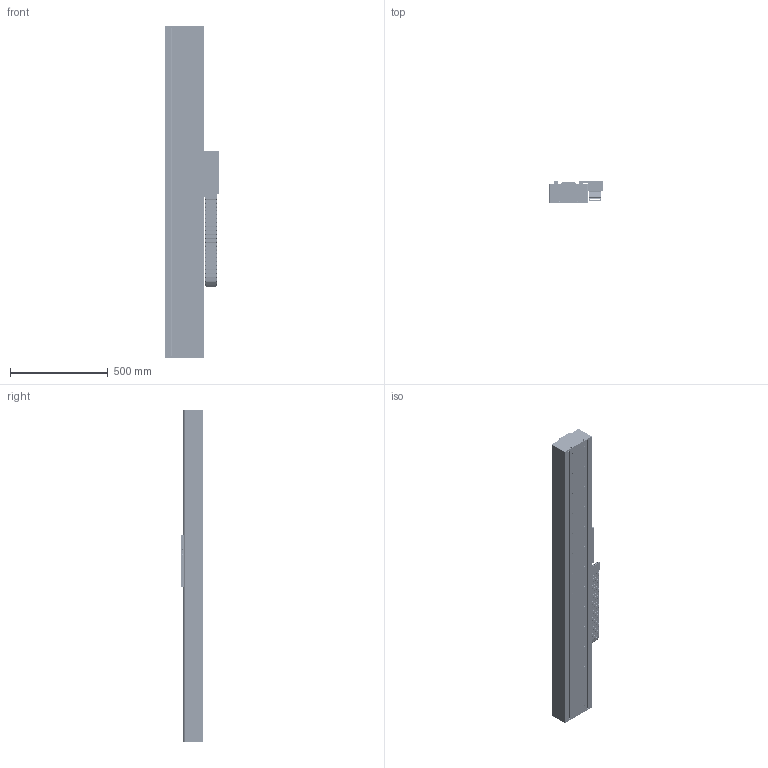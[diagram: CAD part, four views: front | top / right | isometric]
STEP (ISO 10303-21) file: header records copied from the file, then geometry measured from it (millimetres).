
FILE_DESCRIPTION (( 'STEP AP203' ), '1' );
FILE_NAME ('STF50200J-xC1B-Bxx.STEP', '2007-10-29T14:02:01', ( 'Yaskawa' ), ( 'Yaskawa' ), 'SwSTEP 2.0', 'SolidWorks 2007', '' );
FILE_SCHEMA (( 'CONFIG_CONTROL_DESIGN' ));
Products named in the file (58): STF50 Large End Stop; STF50-005-R2 Cable Router; STF50-007 End Stop; SGLFW-50A200AP; SSR20W Block; STCM-R1; STCM-001-R2 Cable Bracket; STCM-006-R1 Upper E-chain Bracket; Serial Converter; STF50-006 Endplate; 07.50.038.0_20; 07.50.038.0_27; 07.50.038.0_25; 07.50.038.0_26; 07.50.038.0_35; 07.50.038.0_37; 07.50.038.0_36; 07.50.038.0_43; 07.50.038.0_31; 07.50.038.0_42; STF50200J-xC1B-Bxx; STF50200 Base_STF50BM-009; SGLFM-50675AC; SGLFM-50945AC; Large Bumper; SSR20 Rail 820_1600; STF50-0200-R1 Carriage; STF50-001A F50-200 Carriage; STF50-003 Renishaw Encoder Bracket; STF50-004 Flag; STF50-002A-R1 F50-200 Carriage Horn; RGH22B; STCM-002-R2 Cable Assembly Front; STCM-003 Cable Assembly Bottom; STCM-004 Cable Assembly Side; STCM-005-R1 Cable Assembly Cover; STF50-009-03 Top Cover_J; STF50-10-03 Side COver_J; STCM-007 Lower E-Chain Bracket; STF50200J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
Assembly tree (89 placements, depth 4):
  STF50200J-xC1B-Bxx
    STF50-006 Endplate  x2
    STF50 Large End Stop  x4
      STF50-007 End Stop
      Large Bumper
    STF50-009-03 Top Cover_J
    STF50200J
      07.50.038.0_46
      07.50.038.0_31  x11
      07.50.038.0_44
      07.50.038.0_41
      07.50.038.0_32  x13
      07.50.038.0_26
      07.50.038.0_29
      07.50.038.0_25
      07.50.038.0_21
      07.50.038.0_27
      07.50.038.0_39
      07.50.038.0_37
      07.50.038.0_30
      07.50.038.0_45
      07.50.038.0_35
      07.50.038.0_28
      07.50.038.0_22
      07.50.038.0_40
      07.50.038.0_23
      07.50.038.0_34
      07.50.038.0_38
      07.50.038.0_33
      07.50.038.0_43
      07.50.038.0_36
      07.50.038.0_42
      07.50.038.0_47
      07.50.038.0_24
      07.50.038.0_20
    STF50-10-03 Side COver_J  x2
    SGLFM-50945AC
    SSR20 Rail 820_1600  x2
    STF50200 Base_STF50BM-009
    SGLFM-50675AC
    STF50-0200-R1 Carriage
      STF50-004 Flag
      STF50-002A-R1 F50-200 Carriage Horn  x2
      STCM-R1
        STCM-003 Cable Assembly Bottom
        STCM-001-R2 Cable Bracket
        STCM-004 Cable Assembly Side
        STCM-002-R2 Cable Assembly Front
        STCM-005-R1 Cable Assembly Cover
        Serial Converter
        STCM-006-R1 Upper E-chain Bracket
      RGH22B
      SGLFW-50A200AP
      SSR20W Block  x4
      STF50-003 Renishaw Encoder Bracket
      STF50-001A F50-200 Carriage
      STF50-005-R2 Cable Router
    STCM-007 Lower E-Chain Bracket
Bounding box: 272.91 x 115 x 1699.05 mm (x, y, z)
Volume: 14466372.3 mm3; surface area: 4007878.4 mm2
Topology: 136 solids, 136 shells, 6585 faces, 17388 edges, 11140 vertices
Faces by surface type: plane 3301, cylinder 2800, cone 468, bspline 8, torus 8
Entity records: 144060 total; most frequent: DIRECTION 24396, CARTESIAN_POINT 23848, ORIENTED_EDGE 22688, EDGE_CURVE 11344, AXIS2_PLACEMENT_3D 8558, VERTEX_POINT 7436, VECTOR 7280, LINE 7280
